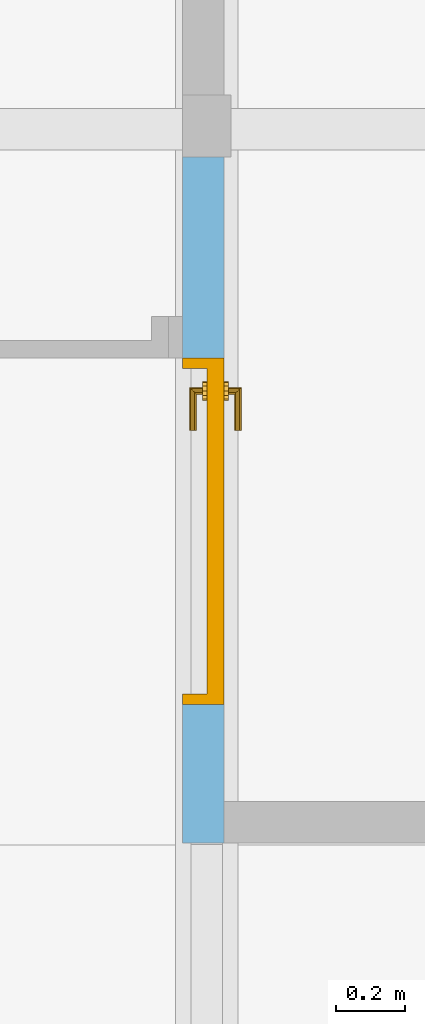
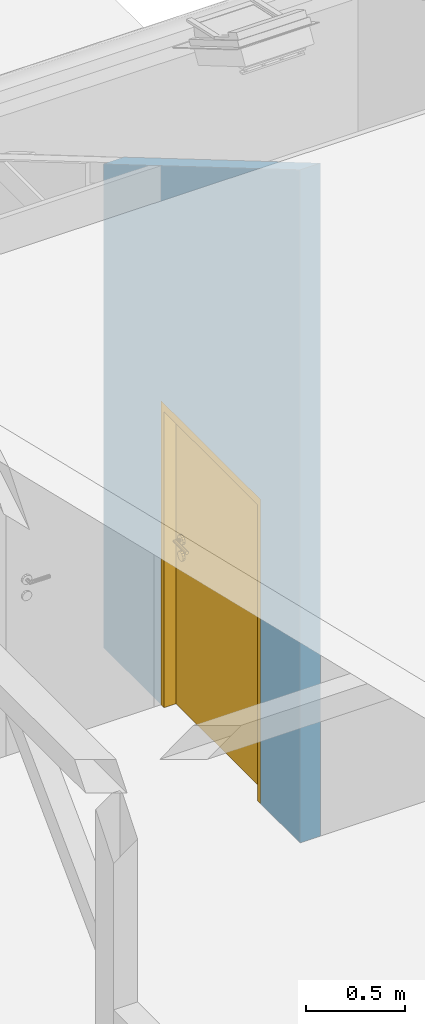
"""IFC4 building model written with IfcOpenShell, lengths in metres."""

from ifc_helpers import new_model, entity, si_unit, converted_unit, derived_unit, frame, frame_2d, origin, origin_with_axes, place, context, subcontext, project, spatial, polyline, rectangle, outline, extrude, clip, halfspace, faceted_brep, source, transform, mapped, material, layer, layer_set, layer_usage, type_object, element, fill, save


model = new_model("IFC4")

# Units and contexts
model_context = context("Model", 3, precision=1e-05, world=origin())
body_context = subcontext(model_context, "Body", "Model", "MODEL_VIEW")
ifc_project = project(units=[si_unit("LENGTHUNIT", "METRE"), si_unit("AREAUNIT", "SQUARE_METRE"), si_unit("VOLUMEUNIT", "CUBIC_METRE"), si_unit("MASSUNIT", "GRAM", prefix="KILO"), converted_unit("PLANEANGLEUNIT", "DEGREE", entity("IfcPlaneAngleMeasure", 0.0174532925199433), si_unit("PLANEANGLEUNIT", "RADIAN"), dimensions=[0, 0, 0, 0, 0, 0, 0]), derived_unit("THERMALTRANSMITTANCEUNIT", [(si_unit("POWERUNIT", "WATT"), 1), (si_unit("THERMODYNAMICTEMPERATUREUNIT", "KELVIN"), -1), (si_unit("LENGTHUNIT", "METRE"), -2)]), derived_unit("VOLUMETRICFLOWRATEUNIT", [(si_unit("LENGTHUNIT", "METRE"), 3), (converted_unit("TIMEUNIT", "hour", entity("IfcTimeMeasure", 3600.0), si_unit("TIMEUNIT", "SECOND"), dimensions=[0, 0, 1, 0, 0, 0, 0]), -1), (si_unit("LENGTHUNIT", "METRE"), -1)])], contexts=[model_context])

# Building, storeys
building_placement = place(None, origin())
building = spatial("IfcBuilding", under=ifc_project, at=building_placement, Name="Bestandsgebäude A - Sporthalle / Wohnhaus (TB 100-499)   ANPASSEN !!!", CompositionType="ELEMENT")
storey_1_placement = place(building_placement, frame((0.0, 0.0, 7.71)))
storey_1 = spatial("IfcBuildingStorey", under=building, at=storey_1_placement, Name="Geb. A Dachgeschoss (TB 450-499)", CompositionType="ELEMENT", Elevation=7.71)
storey_2_placement = place(storey_1_placement, frame((0.0, 0.0, 7.71)))
storey_2 = spatial("IfcBuildingStorey", under=storey_1, at=storey_2_placement, Name="Architektur (TB 450-459)", CompositionType="PARTIAL")

# Wall, opening, door
ifc_material = material(Name="masonry")
ifc_layer = layer(ifc_material, 0.12)
ifc_layer_set = layer_set([ifc_layer])
ifc_layer_usage = layer_usage(ifc_layer_set, "AXIS2", "POSITIVE", 0.0)
wall_placement = place(storey_2_placement, frame((-3.04999999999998, 6.60999999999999, -7.81), z_axis=(0.0, 0.0, 1.0), x_axis=(-3.67472606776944e-15, -1.0, 0.0)))
wall = element("IfcWall", 1, at=wall_placement, inside=storey_2, material=ifc_layer_usage, Name="masonry load-bearing", PredefinedType="USERDEFINED", context=body_context, shape_type="Clipping", body=[
    clip(extrude(rectangle(XDim=1.97999999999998, YDim=0.12, at=frame_2d((0.98999999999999, 0.06), x_axis=(1.0, 0.0))), origin_with_axes(), (0.0, 0.0, 1.0), 4.13700098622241), halfspace(frame((0.98999999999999, 0.06, 3.55477699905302), z_axis=(0.506936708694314, 1.86285353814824e-15, -0.861983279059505), x_axis=(0.861983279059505, 0.0, 0.506936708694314)), True)),
])
opening_placement = place(wall_placement, frame((0.579999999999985, 0.0, 0.0), z_axis=(-3.7895612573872e-15, 1.0, 0.0), x_axis=(0.0, 0.0, 1.0)))
opening = element("IfcOpeningElement", 2, at=opening_placement, cuts=wall, Name="Door opening", PredefinedType="OPENING", context=body_context, shape_type="SweptSolid", body=[
    extrude(outline(polyline([(1.87, 1.0), (1.87, 0.0), (0.0, 0.0), (0.0, 1.0), (1.87, 1.0)])), origin_with_axes(), (0.0, 0.0, 1.0), 0.12),
])
door_type = type_object("IfcDoorType", Name="door", OperationType="SINGLE_SWING_LEFT", ParameterTakesPrecedence=False, PredefinedType="DOOR")
shared_shape = source(origin_with_axes(), body_context, "Body", "Brep", [
    faceted_brep([(1.0, 0.120000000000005, 1.87), (0.970000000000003, 0.120000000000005, 1.87), (0.970000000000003, 0.120000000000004, 0.0), (1.0, 0.120000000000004, 0.0), (1.0, 0.0, 0.0), (0.970000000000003, 0.0, 0.0), (0.970000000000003, 0.0, 1.87), (1.0, 0.0, 1.87)], [[[0, 1, 2, 3]], [[4, 5, 6, 7]], [[3, 4, 7, 0]], [[2, 5, 4, 3]], [[1, 6, 5, 2]], [[0, 7, 6, 1]]], orient=[[False], [False], [False], [False], [False], [False]]),
    faceted_brep([(0.0300000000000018, 0.120000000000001, 1.87), (0.0, 0.120000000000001, 1.87), (0.0, 0.12, 0.0), (0.0300000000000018, 0.12, 0.0), (0.0300000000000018, 0.0, 0.0), (0.0, 0.0, 0.0), (0.0, 0.0, 1.87), (0.0300000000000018, 0.0, 1.87)], [[[0, 1, 2, 3]], [[4, 5, 6, 7]], [[3, 4, 7, 0]], [[2, 5, 4, 3]], [[1, 6, 5, 2]], [[0, 7, 6, 1]]], orient=[[False], [False], [False], [False], [False], [False]]),
    faceted_brep([(0.970000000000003, 0.120000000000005, 1.87), (0.0300000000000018, 0.120000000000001, 1.87), (0.0300000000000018, 0.120000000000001, 1.82), (0.970000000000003, 0.120000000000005, 1.82), (0.970000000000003, 0.0, 1.82), (0.0300000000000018, 0.0, 1.82), (0.0300000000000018, 0.0, 1.87), (0.970000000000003, 0.0, 1.87)], [[[0, 1, 2, 3]], [[4, 5, 6, 7]], [[3, 4, 7, 0]], [[2, 5, 4, 3]], [[1, 6, 5, 2]], [[0, 7, 6, 1]]], orient=[[False], [False], [False], [False], [False], [False]]),
    faceted_brep([(0.970000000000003, 0.120000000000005, 1.82), (0.0300000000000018, 0.120000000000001, 1.82), (0.0300000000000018, 0.12, 0.0), (0.970000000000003, 0.120000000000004, 0.0), (0.970000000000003, 0.0700000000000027, 0.0), (0.0300000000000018, 0.0699999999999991, 0.0), (0.0300000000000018, 0.0699999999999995, 1.82), (0.970000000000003, 0.0700000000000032, 1.82)], [[[0, 1, 2, 3]], [[4, 5, 6, 7]], [[3, 4, 7, 0]], [[2, 5, 4, 3]], [[1, 6, 5, 2]], [[0, 7, 6, 1]]], orient=[[False], [False], [False], [False], [False], [False]]),
    faceted_brep([(0.0711843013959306, 0.0699999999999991, 0.93625), (0.0812500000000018, 0.0699999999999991, 0.926184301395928), (0.0950000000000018, 0.0699999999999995, 0.9225), (0.108750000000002, 0.0699999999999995, 0.926184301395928), (0.118815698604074, 0.0699999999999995, 0.93625), (0.122500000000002, 0.0699999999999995, 0.95), (0.118815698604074, 0.0699999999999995, 0.96375), (0.108750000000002, 0.0699999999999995, 0.973815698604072), (0.0950000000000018, 0.0699999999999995, 0.9775), (0.0812500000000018, 0.0699999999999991, 0.973815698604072), (0.0711843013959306, 0.0699999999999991, 0.96375), (0.0675000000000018, 0.0699999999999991, 0.95), (0.0675000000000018, 0.0574999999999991, 0.95), (0.0711843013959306, 0.0574999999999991, 0.96375), (0.0812500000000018, 0.0574999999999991, 0.973815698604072), (0.0950000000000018, 0.0574999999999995, 0.9775), (0.108750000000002, 0.0574999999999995, 0.973815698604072), (0.118815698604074, 0.0574999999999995, 0.96375), (0.122500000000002, 0.0574999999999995, 0.95), (0.118815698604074, 0.0574999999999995, 0.93625), (0.108750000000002, 0.0574999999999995, 0.926184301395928), (0.0950000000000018, 0.0574999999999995, 0.9225), (0.0812500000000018, 0.0574999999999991, 0.926184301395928), (0.0711843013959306, 0.0574999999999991, 0.93625)], [[[0, 1, 2, 3, 4, 5, 6, 7, 8, 9, 10, 11]], [[12, 13, 14, 15, 16, 17, 18, 19, 20, 21, 22, 23]], [[11, 12, 23, 0]], [[10, 13, 12, 11]], [[9, 14, 13, 10]], [[8, 15, 14, 9]], [[7, 16, 15, 8]], [[6, 17, 16, 7]], [[5, 18, 17, 6]], [[4, 19, 18, 5]], [[3, 20, 19, 4]], [[2, 21, 20, 3]], [[1, 22, 21, 2]], [[0, 23, 22, 1]]], orient=[[False], [False], [False], [False], [False], [False], [False], [False], [False], [False], [False], [False], [False], [False]]),
    faceted_brep([(0.0711843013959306, 0.0699999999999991, 1.03625), (0.0812500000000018, 0.0699999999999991, 1.02618430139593), (0.0950000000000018, 0.0699999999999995, 1.0225), (0.108750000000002, 0.0699999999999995, 1.02618430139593), (0.118815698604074, 0.0699999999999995, 1.03625), (0.122500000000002, 0.0699999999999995, 1.05), (0.118815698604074, 0.0699999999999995, 1.06375), (0.108750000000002, 0.0699999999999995, 1.07381569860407), (0.0950000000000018, 0.0699999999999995, 1.0775), (0.0812500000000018, 0.0699999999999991, 1.07381569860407), (0.0711843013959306, 0.0699999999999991, 1.06375), (0.0675000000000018, 0.0699999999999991, 1.05), (0.0675000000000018, 0.0574999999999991, 1.05), (0.0711843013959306, 0.0574999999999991, 1.06375), (0.0812500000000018, 0.0574999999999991, 1.07381569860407), (0.0950000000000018, 0.0574999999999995, 1.0775), (0.108750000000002, 0.0574999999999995, 1.07381569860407), (0.118815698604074, 0.0574999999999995, 1.06375), (0.122500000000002, 0.0574999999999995, 1.05), (0.118815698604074, 0.0574999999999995, 1.03625), (0.108750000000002, 0.0574999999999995, 1.02618430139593), (0.0950000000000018, 0.0574999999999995, 1.0225), (0.0812500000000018, 0.0574999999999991, 1.02618430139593), (0.0711843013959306, 0.0574999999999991, 1.03625)], [[[0, 1, 2, 3, 4, 5, 6, 7, 8, 9, 10, 11]], [[12, 13, 14, 15, 16, 17, 18, 19, 20, 21, 22, 23]], [[11, 12, 23, 0]], [[10, 13, 12, 11]], [[9, 14, 13, 10]], [[8, 15, 14, 9]], [[7, 16, 15, 8]], [[6, 17, 16, 7]], [[5, 18, 17, 6]], [[4, 19, 18, 5]], [[3, 20, 19, 4]], [[2, 21, 20, 3]], [[1, 22, 21, 2]], [[0, 23, 22, 1]]], orient=[[False], [False], [False], [False], [False], [False], [False], [False], [False], [False], [False], [False], [False], [False]]),
    faceted_brep([(0.0950000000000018, 0.0699999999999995, 1.06), (0.0900000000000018, 0.0699999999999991, 1.05866025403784), (0.0863397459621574, 0.0699999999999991, 1.055), (0.0850000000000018, 0.0699999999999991, 1.05), (0.0863397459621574, 0.0699999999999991, 1.045), (0.0900000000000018, 0.0699999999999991, 1.04133974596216), (0.0950000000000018, 0.0699999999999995, 1.04), (0.100000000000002, 0.0699999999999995, 1.04133974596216), (0.103660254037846, 0.0699999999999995, 1.045), (0.105000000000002, 0.0699999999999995, 1.05), (0.103660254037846, 0.0699999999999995, 1.055), (0.100000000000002, 0.0699999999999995, 1.05866025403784), (0.0950000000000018, 0.0299999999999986, 1.06), (0.0900000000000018, 0.0249999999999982, 1.05866025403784), (0.0863397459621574, 0.0213397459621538, 1.055), (0.0850000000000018, 0.0199999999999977, 1.05), (0.0863397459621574, 0.0213397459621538, 1.045), (0.0900000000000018, 0.0249999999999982, 1.04133974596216), (0.0950000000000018, 0.0299999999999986, 1.04), (0.100000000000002, 0.0349999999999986, 1.04133974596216), (0.103660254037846, 0.0386602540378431, 1.045), (0.105000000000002, 0.0399999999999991, 1.05), (0.103660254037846, 0.0386602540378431, 1.055), (0.100000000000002, 0.0349999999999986, 1.05866025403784), (0.210000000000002, 0.0299999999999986, 1.06), (0.210000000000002, 0.0349999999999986, 1.05866025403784), (0.210000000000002, 0.0386602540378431, 1.055), (0.210000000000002, 0.0399999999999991, 1.05), (0.210000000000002, 0.0386602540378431, 1.045), (0.210000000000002, 0.0349999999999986, 1.04133974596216), (0.210000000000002, 0.0299999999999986, 1.04), (0.210000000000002, 0.0249999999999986, 1.04133974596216), (0.210000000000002, 0.0213397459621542, 1.045), (0.210000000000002, 0.0199999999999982, 1.05), (0.210000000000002, 0.0213397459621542, 1.055), (0.210000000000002, 0.0249999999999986, 1.05866025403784)], [[[0, 1, 2, 3, 4, 5, 6, 7, 8, 9, 10, 11]], [[0, 12, 13, 1]], [[1, 13, 14, 2]], [[2, 14, 15, 3]], [[3, 15, 16, 4]], [[4, 16, 17, 5]], [[5, 17, 18, 6]], [[6, 18, 19, 7]], [[7, 19, 20, 8]], [[8, 20, 21, 9]], [[9, 21, 22, 10]], [[10, 22, 23, 11]], [[11, 23, 12, 0]], [[24, 25, 26, 27, 28, 29, 30, 31, 32, 33, 34, 35]], [[12, 24, 35, 13]], [[13, 35, 34, 14]], [[14, 34, 33, 15]], [[15, 33, 32, 16]], [[16, 32, 31, 17]], [[17, 31, 30, 18]], [[18, 30, 29, 19]], [[19, 29, 28, 20]], [[20, 28, 27, 21]], [[21, 27, 26, 22]], [[22, 26, 25, 23]], [[23, 25, 24, 12]]], orient=[[False], [False], [False], [False], [False], [False], [False], [False], [False], [False], [False], [False], [False], [False], [False], [False], [False], [False], [False], [False], [False], [False], [False], [False], [False], [False]]),
    faceted_brep([(0.0711843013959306, 0.12, 0.93625), (0.0675000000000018, 0.12, 0.95), (0.0711843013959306, 0.12, 0.96375), (0.0812500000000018, 0.12, 0.973815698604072), (0.0950000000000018, 0.120000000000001, 0.9775), (0.108750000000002, 0.120000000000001, 0.973815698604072), (0.118815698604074, 0.120000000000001, 0.96375), (0.122500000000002, 0.120000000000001, 0.95), (0.118815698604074, 0.120000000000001, 0.93625), (0.108750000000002, 0.120000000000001, 0.926184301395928), (0.0950000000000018, 0.120000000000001, 0.9225), (0.0812500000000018, 0.12, 0.926184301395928), (0.0675000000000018, 0.132500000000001, 0.95), (0.0711843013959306, 0.132500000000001, 0.93625), (0.0812500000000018, 0.132500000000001, 0.926184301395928), (0.0950000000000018, 0.132500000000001, 0.9225), (0.108750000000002, 0.132500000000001, 0.926184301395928), (0.118815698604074, 0.132500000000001, 0.93625), (0.122500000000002, 0.132500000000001, 0.95), (0.118815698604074, 0.132500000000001, 0.96375), (0.108750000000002, 0.132500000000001, 0.973815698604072), (0.0950000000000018, 0.132500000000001, 0.9775), (0.0812500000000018, 0.132500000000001, 0.973815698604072), (0.0711843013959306, 0.132500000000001, 0.96375)], [[[0, 1, 2, 3, 4, 5, 6, 7, 8, 9, 10, 11]], [[12, 13, 14, 15, 16, 17, 18, 19, 20, 21, 22, 23]], [[1, 0, 13, 12]], [[2, 1, 12, 23]], [[3, 2, 23, 22]], [[4, 3, 22, 21]], [[5, 4, 21, 20]], [[6, 5, 20, 19]], [[7, 6, 19, 18]], [[8, 7, 18, 17]], [[9, 8, 17, 16]], [[10, 9, 16, 15]], [[11, 10, 15, 14]], [[0, 11, 14, 13]]], orient=[[False], [False], [False], [False], [False], [False], [False], [False], [False], [False], [False], [False], [False], [False]]),
    faceted_brep([(0.0711843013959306, 0.12, 1.03625), (0.0675000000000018, 0.12, 1.05), (0.0711843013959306, 0.12, 1.06375), (0.0812500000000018, 0.12, 1.07381569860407), (0.0950000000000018, 0.120000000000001, 1.0775), (0.108750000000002, 0.120000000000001, 1.07381569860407), (0.118815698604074, 0.120000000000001, 1.06375), (0.122500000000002, 0.120000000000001, 1.05), (0.118815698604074, 0.120000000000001, 1.03625), (0.108750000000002, 0.120000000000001, 1.02618430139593), (0.0950000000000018, 0.120000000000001, 1.0225), (0.0812500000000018, 0.12, 1.02618430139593), (0.0675000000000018, 0.132500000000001, 1.05), (0.0711843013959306, 0.132500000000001, 1.03625), (0.0812500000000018, 0.132500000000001, 1.02618430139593), (0.0950000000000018, 0.132500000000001, 1.0225), (0.108750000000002, 0.132500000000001, 1.02618430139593), (0.118815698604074, 0.132500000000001, 1.03625), (0.122500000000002, 0.132500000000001, 1.05), (0.118815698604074, 0.132500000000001, 1.06375), (0.108750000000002, 0.132500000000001, 1.07381569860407), (0.0950000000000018, 0.132500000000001, 1.0775), (0.0812500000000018, 0.132500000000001, 1.07381569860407), (0.0711843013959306, 0.132500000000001, 1.06375)], [[[0, 1, 2, 3, 4, 5, 6, 7, 8, 9, 10, 11]], [[12, 13, 14, 15, 16, 17, 18, 19, 20, 21, 22, 23]], [[1, 0, 13, 12]], [[2, 1, 12, 23]], [[3, 2, 23, 22]], [[4, 3, 22, 21]], [[5, 4, 21, 20]], [[6, 5, 20, 19]], [[7, 6, 19, 18]], [[8, 7, 18, 17]], [[9, 8, 17, 16]], [[10, 9, 16, 15]], [[11, 10, 15, 14]], [[0, 11, 14, 13]]], orient=[[False], [False], [False], [False], [False], [False], [False], [False], [False], [False], [False], [False], [False], [False]]),
    faceted_brep([(0.0950000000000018, 0.120000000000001, 1.06), (0.100000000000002, 0.120000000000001, 1.05866025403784), (0.103660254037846, 0.120000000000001, 1.055), (0.105000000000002, 0.120000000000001, 1.05), (0.103660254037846, 0.120000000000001, 1.045), (0.100000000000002, 0.120000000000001, 1.04133974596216), (0.0950000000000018, 0.120000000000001, 1.04), (0.0900000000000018, 0.12, 1.04133974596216), (0.0863397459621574, 0.12, 1.045), (0.0850000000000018, 0.12, 1.05), (0.0863397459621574, 0.12, 1.055), (0.0900000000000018, 0.12, 1.05866025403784), (0.0900000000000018, 0.165000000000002, 1.05866025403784), (0.0950000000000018, 0.160000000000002, 1.06), (0.0863397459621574, 0.168660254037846, 1.055), (0.0850000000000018, 0.170000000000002, 1.05), (0.0863397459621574, 0.168660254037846, 1.045), (0.0900000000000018, 0.165000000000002, 1.04133974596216), (0.0950000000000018, 0.160000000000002, 1.04), (0.100000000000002, 0.155000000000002, 1.04133974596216), (0.103660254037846, 0.151339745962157, 1.045), (0.105000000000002, 0.150000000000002, 1.05), (0.103660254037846, 0.151339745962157, 1.055), (0.100000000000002, 0.155000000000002, 1.05866025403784), (0.210000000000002, 0.160000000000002, 1.06), (0.210000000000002, 0.165000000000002, 1.05866025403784), (0.210000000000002, 0.168660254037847, 1.055), (0.210000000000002, 0.170000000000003, 1.05), (0.210000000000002, 0.168660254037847, 1.045), (0.210000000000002, 0.165000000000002, 1.04133974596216), (0.210000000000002, 0.160000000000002, 1.04), (0.210000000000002, 0.155000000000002, 1.04133974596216), (0.210000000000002, 0.151339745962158, 1.045), (0.210000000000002, 0.150000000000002, 1.05), (0.210000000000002, 0.151339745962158, 1.055), (0.210000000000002, 0.155000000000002, 1.05866025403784)], [[[0, 1, 2, 3, 4, 5, 6, 7, 8, 9, 10, 11]], [[0, 11, 12, 13]], [[11, 10, 14, 12]], [[10, 9, 15, 14]], [[9, 8, 16, 15]], [[8, 7, 17, 16]], [[7, 6, 18, 17]], [[6, 5, 19, 18]], [[5, 4, 20, 19]], [[4, 3, 21, 20]], [[3, 2, 22, 21]], [[2, 1, 23, 22]], [[1, 0, 13, 23]], [[24, 25, 26, 27, 28, 29, 30, 31, 32, 33, 34, 35]], [[13, 12, 25, 24]], [[12, 14, 26, 25]], [[14, 15, 27, 26]], [[15, 16, 28, 27]], [[16, 17, 29, 28]], [[17, 18, 30, 29]], [[18, 19, 31, 30]], [[19, 20, 32, 31]], [[20, 21, 33, 32]], [[21, 22, 34, 33]], [[22, 23, 35, 34]], [[23, 13, 24, 35]]], orient=[[False], [False], [False], [False], [False], [False], [False], [False], [False], [False], [False], [False], [False], [False], [False], [False], [False], [False], [False], [False], [False], [False], [False], [False], [False], [False]]),
])
door_placement = place(opening_placement, frame((0.0, 0.0, 0.0), z_axis=(1.0, 0.0, 0.0), x_axis=(0.0, 1.0, -3.75281399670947e-15)))
door = element("IfcDoor", 3, at=door_placement, inside=storey_2, type_object=door_type, Name="door", OverallHeight=1.87, OverallWidth=1.0, PredefinedType="DOOR", context=body_context, shape_type="MappedRepresentation", body=[
    mapped(shared_shape, transform((0.0, 0.0, 0.0), x_axis=(1.0, 0.0, 0.0), y_axis=(0.0, 1.0, 0.0), z_axis=(0.0, 0.0, 1.0), scale=1.0)),
])
fill(opening, door)

save(model, "model.ifc")
